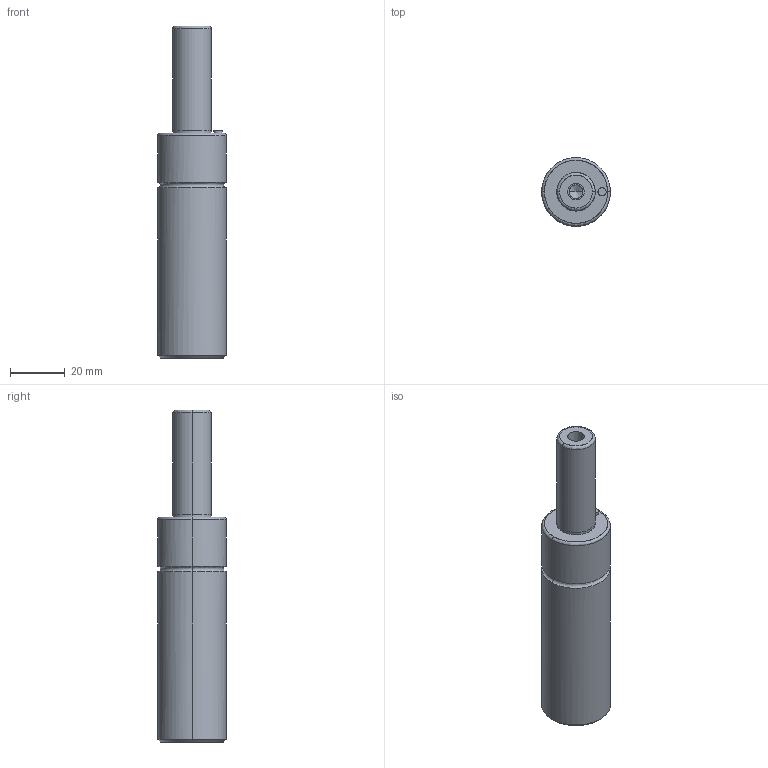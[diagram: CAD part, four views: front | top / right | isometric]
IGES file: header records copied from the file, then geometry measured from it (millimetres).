
Global section: file name: E:\UnigraphicsGraphicData\MISUMI_PRESS-PARTS\IGES\3d_mgsa25-38_04554_r00.igs; native system: NX V5.0; preprocessor: UGS NX IGES V5.0; author: MISUMI; date: 20110105.161432; units: millimetre
Bounding box: 25 x 24.95 x 121 mm (x, y, z)
Surface area: 9458.5 mm2 (no closed solid volume)
Topology: 0 solids, 0 shells, 36 faces, 216 edges, 212 vertices
Faces by surface type: bspline 36
